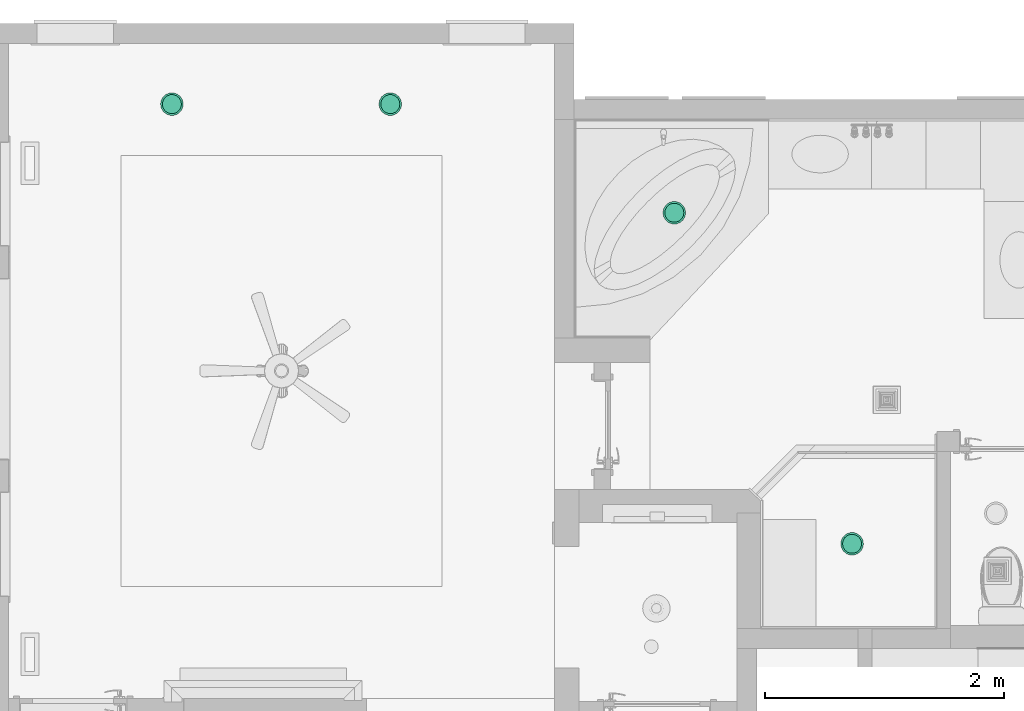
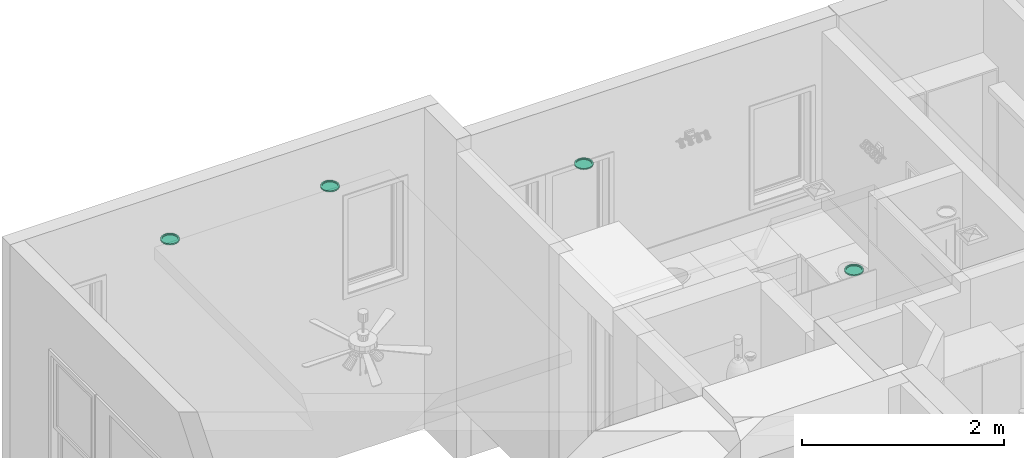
# One storey, part 49 of 77: 4 flow terminals.
"""IFC2X3 building model written with IfcOpenShell, lengths in inches."""

from ifc_helpers import new_model, entity, si_unit, converted_unit, derived_unit, money_unit, direction, frame, origin_with_axes, place, context, subcontext, project, spatial, open_shell, faceted_brep, surface_model, source, transform, mapped, type_object, element, save


model = new_model("IFC2X3")

# Units and contexts
model_context = context("Model", 3, precision=0.000393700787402, world=origin_with_axes(), true_north=direction((0.0, 1.0)))
body_context = subcontext(model_context, "Body", "Model", "MODEL_VIEW")
ifc_project = project(units=[converted_unit("LENGTHUNIT", "INCH", entity("IfcPositiveLengthMeasure", 0.0254), si_unit("LENGTHUNIT", "METRE"), dimensions=[1, 0, 0, 0, 0, 0, 0]), converted_unit("AREAUNIT", "SQUARE_FOOT", entity("IfcPositiveLengthMeasure", 0.09290304), si_unit("AREAUNIT", "SQUARE_METRE"), dimensions=[2, 0, 0, 0, 0, 0, 0]), si_unit("PLANEANGLEUNIT", "RADIAN"), si_unit("SOLIDANGLEUNIT", "STERADIAN"), money_unit("USD"), converted_unit("TIMEUNIT", "Year", entity("IfcTimeMeasure", 31556926.0), si_unit("TIMEUNIT", "SECOND"), dimensions=[0, 0, 1, 0, 0, 0, 0]), si_unit("MASSUNIT", "GRAM", prefix="KILO"), si_unit("THERMODYNAMICTEMPERATUREUNIT", "DEGREE_CELSIUS"), si_unit("LUMINOUSINTENSITYUNIT", "LUMEN"), si_unit("ENERGYUNIT", "JOULE", prefix="MEGA"), derived_unit("THERMALCONDUCTANCEUNIT", [(si_unit("POWERUNIT", "WATT"), 1), (si_unit("LENGTHUNIT", "METRE"), -1), (si_unit("THERMODYNAMICTEMPERATUREUNIT", "KELVIN"), -1)]), derived_unit("SPECIFICHEATCAPACITYUNIT", [(si_unit("ENERGYUNIT", "JOULE"), 1), (si_unit("MASSUNIT", "GRAM", prefix="KILO"), -1), (si_unit("THERMODYNAMICTEMPERATUREUNIT", "KELVIN"), -1)]), derived_unit("MASSDENSITYUNIT", [(si_unit("MASSUNIT", "GRAM", prefix="KILO"), 1), (si_unit("VOLUMEUNIT", "CUBIC_METRE"), -1)])], contexts=[model_context])

# Site, building, storey
site_placement = place(None, origin_with_axes())
site = spatial("IfcSite", under=ifc_project, at=site_placement, Name="Site", CompositionType="ELEMENT")
building_placement = place(site_placement, origin_with_axes())
building = spatial("IfcBuilding", under=site, at=building_placement, Name="Building", CompositionType="ELEMENT")
storey_placement = place(building_placement, frame((0.0, 0.0, 127.952755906), z_axis=(0.0, 0.0, 1.0), x_axis=(1.0, 0.0, 0.0)))
storey = spatial("IfcBuildingStorey", under=building, at=storey_placement, Name="Second Floor", CompositionType="ELEMENT", Elevation=127.953)

# Flow terminals
light_fixture_type = type_object("IfcLightFixtureType", Name="Recessed Spot 25", PredefinedType="NOTDEFINED")
shared_shape = source(origin_with_axes(), body_context, "Body", "SurfaceModel", [
    faceted_brep([(3.74015748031, 0.0, -0.590551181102), (3.51459838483, 1.27920919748, -0.590551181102), (3.51459838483, 1.27920919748, 0.0), (3.74015748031, 0.0, 0.0), (3.51459838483, -1.27920919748, -0.590551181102), (2.86512685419, -2.40412688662, -0.590551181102), (1.87007874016, -3.23907139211, -0.590551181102), (0.649471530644, -3.6833360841, -0.590551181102), (-0.649471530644, -3.6833360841, -0.590551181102), (-1.87007874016, -3.23907139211, -0.590551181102), (-2.86512685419, -2.40412688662, -0.590551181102), (-3.51459838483, -1.27920919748, -0.590551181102), (-3.74015748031, 0.0, -0.590551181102), (-3.51459838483, 1.27920919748, -0.590551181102), (-2.86512685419, 2.40412688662, -0.590551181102), (-1.87007874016, 3.23907139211, -0.590551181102), (-0.649471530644, 3.6833360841, -0.590551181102), (0.649471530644, 3.6833360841, -0.590551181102), (1.87007874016, 3.23907139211, -0.590551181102), (2.86512685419, 2.40412688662, -0.590551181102), (3.14960629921, 0.0, -0.590551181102), (2.95966179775, 1.07722879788, -0.590551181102), (2.41273840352, 2.02452790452, -0.590551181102), (1.57480314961, 2.72763906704, -0.590551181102), (0.546923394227, 3.1017567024, -0.590551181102), (-0.546923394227, 3.1017567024, -0.590551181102), (-1.57480314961, 2.72763906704, -0.590551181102), (-2.41273840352, 2.02452790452, -0.590551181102), (-2.95966179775, 1.07722879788, -0.590551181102), (-3.14960629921, 0.0, -0.590551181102), (-2.95966179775, -1.07722879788, -0.590551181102), (-2.41273840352, -2.02452790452, -0.590551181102), (-1.57480314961, -2.72763906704, -0.590551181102), (-0.546923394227, -3.1017567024, -0.590551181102), (0.546923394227, -3.1017567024, -0.590551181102), (1.57480314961, -2.72763906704, -0.590551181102), (2.41273840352, -2.02452790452, -0.590551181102), (2.95966179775, -1.07722879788, -0.590551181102), (2.86512685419, 2.40412688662, 0.0), (1.87007874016, 3.23907139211, 0.0), (0.649471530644, 3.6833360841, 0.0), (-0.649471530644, 3.6833360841, 0.0), (-1.87007874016, 3.23907139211, 0.0), (-2.86512685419, 2.40412688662, 0.0), (-3.51459838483, 1.27920919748, 0.0), (-3.74015748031, 0.0, 0.0), (-3.51459838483, -1.27920919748, 0.0), (-2.86512685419, -2.40412688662, 0.0), (-1.87007874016, -3.23907139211, 0.0), (-0.649471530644, -3.6833360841, 0.0), (0.649471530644, -3.6833360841, 0.0), (1.87007874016, -3.23907139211, 0.0), (2.86512685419, -2.40412688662, 0.0), (3.51459838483, -1.27920919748, 0.0), (3.14960629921, 0.0, 0.0), (2.95966179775, -1.07722879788, 0.0), (2.41273840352, -2.02452790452, 0.0), (1.57480314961, -2.72763906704, 0.0), (0.546923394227, -3.1017567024, 0.0), (-0.546923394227, -3.1017567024, 0.0), (-1.57480314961, -2.72763906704, 0.0), (-2.41273840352, -2.02452790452, 0.0), (-2.95966179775, -1.07722879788, 0.0), (-3.14960629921, 0.0, 0.0), (-2.95966179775, 1.07722879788, 0.0), (-2.41273840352, 2.02452790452, 0.0), (-1.57480314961, 2.72763906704, 0.0), (-0.546923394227, 3.1017567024, 0.0), (0.546923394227, 3.1017567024, 0.0), (1.57480314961, 2.72763906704, 0.0), (2.41273840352, 2.02452790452, 0.0), (2.95966179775, 1.07722879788, 0.0)], [[[0, 1, 2, 3]], [[0, 4, 5, 6, 7, 8, 9, 10, 11, 12, 13, 14, 15, 16, 17, 18, 19, 1], [20, 21, 22, 23, 24, 25, 26, 27, 28, 29, 30, 31, 32, 33, 34, 35, 36, 37]], [[1, 19, 38, 2]], [[3, 2, 38, 39, 40, 41, 42, 43, 44, 45, 46, 47, 48, 49, 50, 51, 52, 53], [54, 55, 56, 57, 58, 59, 60, 61, 62, 63, 64, 65, 66, 67, 68, 69, 70, 71]], [[4, 0, 3, 53]], [[5, 4, 53, 52]], [[6, 5, 52, 51]], [[7, 6, 51, 50]], [[8, 7, 50, 49]], [[9, 8, 49, 48]], [[10, 9, 48, 47]], [[11, 10, 47, 46]], [[12, 11, 46, 45]], [[13, 12, 45, 44]], [[14, 13, 44, 43]], [[15, 14, 43, 42]], [[16, 15, 42, 41]], [[17, 16, 41, 40]], [[18, 17, 40, 39]], [[19, 18, 39, 38]], [[21, 20, 54, 71]], [[22, 21, 71, 70]], [[23, 22, 70, 69]], [[24, 23, 69, 68]], [[25, 24, 68, 67]], [[26, 25, 67, 66]], [[27, 26, 66, 65]], [[28, 27, 65, 64]], [[29, 28, 64, 63]], [[30, 29, 63, 62]], [[31, 30, 62, 61]], [[32, 31, 61, 60]], [[33, 32, 60, 59]], [[34, 33, 59, 58]], [[35, 34, 58, 57]], [[36, 35, 57, 56]], [[37, 36, 56, 55]], [[20, 37, 55, 54]]]),
    surface_model("IfcShellBasedSurfaceModel", [(3.14960629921, 0.0, -0.527559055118), (2.95966179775, -1.07722879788, -0.527559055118), (2.41273840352, -2.02452790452, -0.527559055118), (1.57480314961, -2.72763906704, -0.527559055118), (0.546923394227, -3.1017567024, -0.527559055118), (-0.546923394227, -3.1017567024, -0.527559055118), (-1.57480314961, -2.72763906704, -0.527559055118), (-2.41273840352, -2.02452790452, -0.527559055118), (-2.95966179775, -1.07722879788, -0.527559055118), (-3.14960629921, 0.0, -0.527559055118), (-2.95966179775, 1.07722879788, -0.527559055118), (-2.41273840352, 2.02452790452, -0.527559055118), (-1.57480314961, 2.72763906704, -0.527559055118), (-0.546923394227, 3.1017567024, -0.527559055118), (0.546923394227, 3.1017567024, -0.527559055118), (1.57480314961, 2.72763906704, -0.527559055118), (2.41273840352, 2.02452790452, -0.527559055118), (2.95966179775, 1.07722879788, -0.527559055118)], [open_shell([[[0, 1, 2, 3, 4, 5, 6, 7, 8, 9, 10, 11, 12, 13, 14, 15, 16, 17]]])]),
])
for number, where, z_axis, x_axis, name in (
    (1, (352.622194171, 587.911125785, 120.094488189), (0.0, 0.0, 1.0), (1.0, 0.0, 0.0), "L-03"),
    (2, (280.574950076, 587.911125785, 120.094488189), (0.0, 0.0, 1.0), (1.0, 0.0, 0.0), "L-03"),
    (3, (504.964979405, 442.860837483, 114.75), (0.0, 0.0, 1.0), (1.0, 0.0, 0.0), "L-03"),
    (4, (446.310509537, 552.076415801, 119.68503937), (0.0, 0.0, 1.0), (1.0, 0.0, 0.0), "L-03"),
):
    element("IfcFlowTerminal", number, at=place(storey_placement, frame(where, z_axis=z_axis, x_axis=x_axis)), inside=storey, type_object=light_fixture_type, Name=name, context=body_context, shape_type="MappedRepresentation", body=[
        mapped(shared_shape, transform((0.0, 0.0, 0.0))),
    ])

save(model, "model.ifc")
